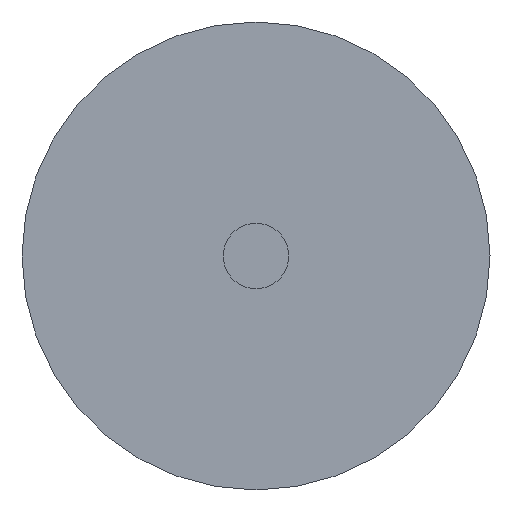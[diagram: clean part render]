
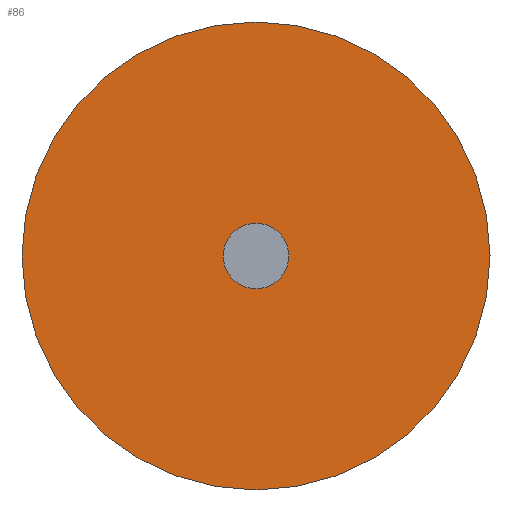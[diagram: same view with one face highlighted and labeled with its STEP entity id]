
A CAD part, left-side view. The second image highlights one B-rep face of the part: STEP entity #86.
In plain terms, the highlighted planar face has unit normal (-1, 0, 0).
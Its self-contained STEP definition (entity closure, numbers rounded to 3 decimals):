
#16=PLANE('',#101);
#26=FACE_OUTER_BOUND('',#36,.T.);
#36=EDGE_LOOP('',(#66));
#47=CIRCLE('',#100,2.285);
#53=VERTEX_POINT('',#149);
#59=EDGE_CURVE('',#53,#53,#47,.T.);
#66=ORIENTED_EDGE('',*,*,#59,.T.);
#86=ADVANCED_FACE('',(#26),#16,.F.);
#100=AXIS2_PLACEMENT_3D('',#150,#119,#120);
#101=AXIS2_PLACEMENT_3D('',#151,#121,#122);
#119=DIRECTION('center_axis',(-1.,0.,0.));
#120=DIRECTION('ref_axis',(0.,-1.,0.));
#121=DIRECTION('center_axis',(1.,0.,0.));
#122=DIRECTION('ref_axis',(0.,0.,-1.));
#149=CARTESIAN_POINT('',(0.,2.285,0.));
#150=CARTESIAN_POINT('Origin',(0.,0.,0.));
#151=CARTESIAN_POINT('Origin',(0.,0.,0.));
